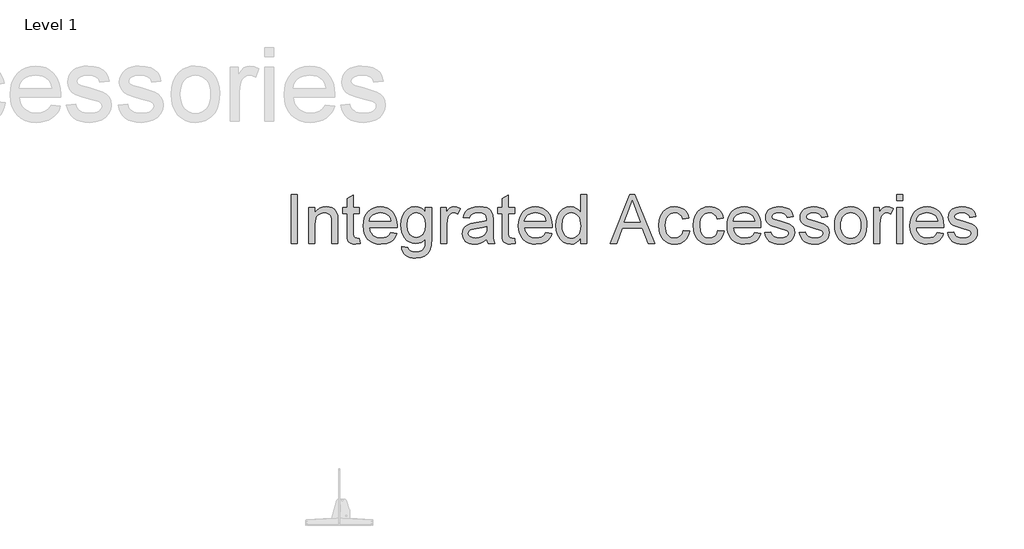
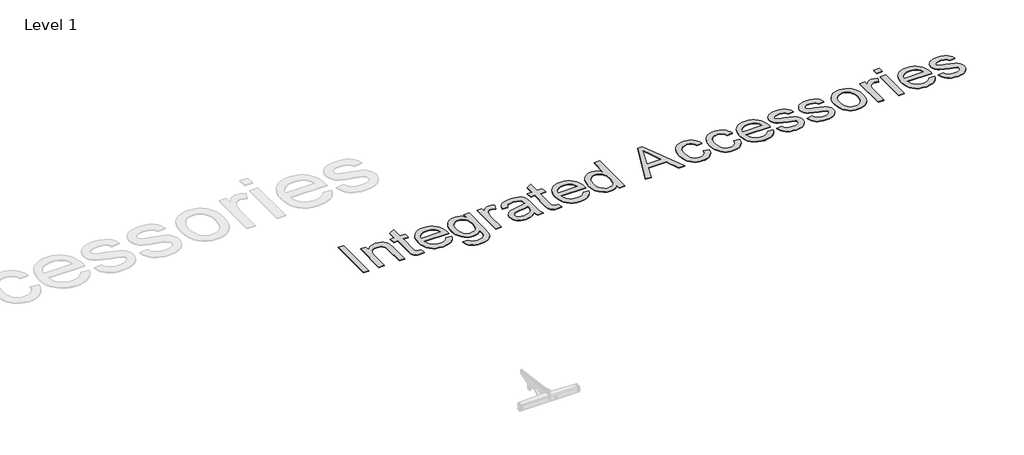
# One storey, part 9 of 31: 1 proxy.
"""IFC4 building model written with IfcOpenShell, lengths in millimetres."""

from ifc_helpers import new_model, si_unit, origin, origin_with_axes, place, context, project, spatial, polyline, outline, extrude, element, save

model = new_model("IFC4")

# Units and contexts
model_context = context("Model", 3, world=origin())
ifc_project = project(units=[si_unit("LENGTHUNIT", "METRE", prefix="MILLI")], contexts=[model_context])

# Site, building, storey
site = spatial("IfcSite", under=ifc_project)
building = spatial("IfcBuilding", under=site)
storey = spatial("IfcBuildingStorey", under=building, Name="Level 1", Elevation=0.0)

# Proxy
placement = place(None, origin())
element("IfcBuildingElementProxy", 1, Name="400mm Arial", ObjectType="400mm Arial", at=placement, inside=storey, context=model_context, shape_type="SweptSolid", body=[
    extrude(outline(polyline([(-11436.5180264, -13671.3757633), (-11436.5180264, -13269.5505227), (-11386.2898713, -13269.5505227), (-11386.2898713, -13671.3757633), (-11436.5180264, -13671.3757633)])), origin_with_axes(), (0.0, 0.0, 1.0), 5.0),
    extrude(outline(polyline([(-11292.1120806, -13671.3757633), (-11292.1120806, -13376.2853522), (-11241.8839255, -13376.2853522), (-11241.8839255, -13417.4881357), (-11224.4340562, -13396.7150657), (-11203.4770452, -13381.8771585), (-11179.0128925, -13372.9744143), (-11151.0415982, -13370.0068328), (-11126.2831399, -13372.3980658), (-11103.6093462, -13379.5717647), (-11084.7002117, -13390.63275), (-11071.2357307, -13404.6858422), (-11062.0999945, -13421.6942532), (-11056.1770943, -13441.6211946), (-11053.528344, -13490.1816179), (-11053.528344, -13671.3757633), (-11103.756499, -13671.3757633), (-11103.756499, -13496.9506466), (-11105.2035016, -13470.9781778), (-11109.5445091, -13452.5105016), (-11117.5520739, -13439.2790125), (-11129.998748, -13429.0151049), (-11145.9525639, -13422.4300171), (-11164.4815537, -13420.2349879), (-11193.8998506, -13425.1646066), (-11218.9771399, -13439.9534629), (-11228.9988586, -13452.0261237), (-11236.1572291, -13468.5256311), (-11240.4522514, -13489.4519853), (-11241.8839255, -13514.8051861), (-11241.8839255, -13671.3757633), (-11292.1120806, -13671.3757633)])), origin_with_axes(), (0.0, 0.0, 1.0), 5.0),
    extrude(outline(polyline([(-10877.7298012, -13629.4862668), (-10871.4512818, -13672.8472913), (-10909.0242963, -13677.6542827), (-10933.1328297, -13675.569618), (-10951.1099965, -13669.3156241), (-10963.8141881, -13659.6771158), (-10972.1037957, -13647.4389081), (-10976.6655324, -13626.4205835), (-10978.1861114, -13590.4417243), (-10978.1861114, -13426.5135073), (-11015.8572277, -13426.5135073), (-11015.8572277, -13376.2853522), (-10978.1861114, -13376.2853522), (-10978.1861114, -13304.5728886), (-10927.9579563, -13275.0442271), (-10927.9579563, -13376.2853522), (-10877.7298012, -13376.2853522), (-10877.7298012, -13426.5135073), (-10927.9579563, -13426.5135073), (-10927.9579563, -13588.9701964), (-10925.3092059, -13614.8690888), (-10916.7252927, -13624.0416132), (-10899.6065172, -13627.4261276), (-10877.7298012, -13629.4862668)])), origin_with_axes(), (0.0, 0.0, 1.0), 5.0),
    extrude(outline(polyline([(-10620.8991176, -13583.4764919), (-10571.6519812, -13589.7550113), (-10579.2027592, -13609.4796176), (-10589.3961561, -13626.8620419), (-10602.2321721, -13641.9022841), (-10617.710807, -13654.6003443), (-10635.6726454, -13664.6864423), (-10655.9582718, -13671.8907981), (-10703.5008883, -13677.6542827), (-10734.6666246, -13675.1680135), (-10762.4355839, -13667.7092061), (-10786.8077661, -13655.2778603), (-10807.7831712, -13637.8739763), (-10824.6505607, -13615.9819319), (-10836.698696, -13590.0861051), (-10843.9275772, -13560.1864959), (-10846.3372043, -13526.2831044), (-10843.9030517, -13491.2300816), (-10836.6005941, -13460.3341254), (-10824.4298315, -13433.5952357), (-10807.3907637, -13411.0134126), (-10786.4705409, -13393.0730339), (-10762.6563131, -13380.2584778), (-10735.9480803, -13372.5697441), (-10706.3458424, -13370.0068328), (-10677.697032, -13372.5636127), (-10651.7889425, -13380.2339523), (-10628.6215739, -13393.0178516), (-10608.1949261, -13410.9153107), (-10591.5206746, -13433.4480829), (-10579.610495, -13460.1379217), (-10572.4643873, -13490.9848269), (-10570.0823514, -13525.9887988), (-10570.376657, -13539.5268562), (-10796.1090492, -13539.5268562), (-10793.1997158, -13559.5702936), (-10787.4147714, -13577.1243961), (-10778.7542161, -13592.1891638), (-10767.2180499, -13604.7645967), (-10753.4439348, -13614.6790165), (-10738.0695331, -13621.7607449), (-10702.5198696, -13627.4261276), (-10675.7871113, -13624.8019027), (-10653.2727332, -13616.929228), (-10634.9767353, -13603.3175942), (-10620.8991176, -13583.4764919)]), holes=[polyline([(-10796.1090492, -13489.2987011), (-10620.3105064, -13489.2987011), (-10627.1040606, -13462.7621466), (-10640.4213888, -13443.7794356), (-10654.1188618, -13433.4787397), (-10669.7047957, -13426.1210998), (-10687.1791904, -13421.7065159), (-10706.5420461, -13420.2349879), (-10740.3994524, -13424.9316147), (-10768.3952722, -13439.0214951), (-10787.8562298, -13460.9840502), (-10796.1090492, -13489.2987011)])]), origin_with_axes(), (0.0, 0.0, 1.0), 5.0),
    extrude(outline(polyline([(-10532.4112351, -13696.4898408), (-10482.18308, -13702.7683602), (-10476.6403246, -13718.4646587), (-10465.8981703, -13729.2558639), (-10444.7817438, -13737.6435733), (-10417.1415432, -13740.4394765), (-10387.6619327, -13737.2756914), (-10365.7361658, -13727.7843359), (-10350.5303767, -13712.5785467), (-10341.2106994, -13692.2714606), (-10337.7771342, -13633.704647), (-10354.4912395, -13650.1857604), (-10373.1428566, -13661.9579842), (-10393.7319856, -13669.0213185), (-10416.2586265, -13671.3757633), (-10443.7976595, -13668.6350424), (-10468.0441486, -13660.4128798), (-10488.998094, -13646.7092755), (-10506.6594954, -13627.5242295), (-10520.6727337, -13604.5070793), (-10530.6821897, -13579.3071626), (-10536.6878633, -13551.9244794), (-10538.6897545, -13522.3590298), (-10535.0967736, -13481.8061712), (-10524.3178312, -13444.5151996), (-10506.7330718, -13412.9141362), (-10482.7226403, -13389.4310022), (-10453.1081396, -13374.8628752), (-10418.7111731, -13370.0068328), (-10395.2219077, -13372.7536851), (-10373.9031461, -13380.9942418), (-10354.7548882, -13394.7285029), (-10337.7771342, -13413.9564685), (-10337.7771342, -13376.2853522), (-10287.5489791, -13376.2853522), (-10287.5489791, -13631.0558966), (-10290.9825444, -13689.8802276), (-10301.2832402, -13728.6182017), (-10319.0274151, -13754.3086277), (-10344.7914175, -13773.9903145), (-10378.0111617, -13786.4983023), (-10418.1225619, -13790.6676316), (-10442.7308017, -13789.1991693), (-10464.855838, -13784.7937824), (-10484.4976709, -13777.4514709), (-10501.6563003, -13767.1722348), (-10515.5162544, -13753.9438114), (-10525.2620616, -13737.7539379), (-10530.8937218, -13718.6026144), (-10532.4112351, -13696.4898408)]), holes=[polyline([(-10488.4615994, -13518.9254645), (-10483.102785, -13564.996553), (-10476.404267, -13582.633429), (-10467.0263418, -13596.6711928), (-10455.6250656, -13607.3796245), (-10442.8564947, -13615.0285044), (-10428.720629, -13619.6178322), (-10413.2174686, -13621.1476082), (-10397.8675924, -13619.6270293), (-10383.7991717, -13615.0652926), (-10371.0122067, -13607.462398), (-10359.5066973, -13596.8183456), (-10350.0000134, -13582.9185375), (-10343.2095249, -13565.548376), (-10337.7771342, -13520.3969925), (-10343.3689405, -13476.852027), (-10350.3586984, -13459.650478), (-10360.1443595, -13445.4962182), (-10371.8981892, -13434.44443), (-10384.7924531, -13426.5502955), (-10398.8271513, -13421.8138148), (-10414.0022836, -13420.2349879), (-10428.9229641, -13421.7892893), (-10442.6848164, -13426.4521936), (-10466.7320362, -13445.1038108), (-10476.2387201, -13459.0434727), (-10483.0292086, -13475.9936356), (-10488.4615994, -13518.9254645)])]), origin_with_axes(), (0.0, 0.0, 1.0), 5.0),
    extrude(outline(polyline([(-10212.2067465, -13671.3757633), (-10212.2067465, -13376.2853522), (-10168.2571108, -13376.2853522), (-10168.2571108, -13419.9406823), (-10152.0212521, -13394.630401), (-10137.0607176, -13379.7189175), (-10122.0511322, -13372.434854), (-10105.6681207, -13370.0068328), (-10080.652145, -13373.8818565), (-10055.2437619, -13385.5069276), (-10072.0191808, -13430.5356838), (-10089.6775166, -13422.8101619), (-10107.3358524, -13420.2349879), (-10122.333175, -13422.71206), (-10135.7363424, -13430.1432763), (-10146.5643358, -13441.9645511), (-10153.8361366, -13457.6117986), (-10159.9429777, -13485.6689321), (-10161.9785914, -13516.2767141), (-10161.9785914, -13671.3757633), (-10212.2067465, -13671.3757633)])), origin_with_axes(), (0.0, 0.0, 1.0), 5.0),
    extrude(outline(polyline([(-9835.4955834, -13633.704647), (-9859.4937522, -13654.2815132), (-9884.2031596, -13667.7459943), (-9910.1878912, -13675.1772106), (-9938.0120327, -13677.6542827), (-9960.3761923, -13676.1643606), (-9979.9873684, -13671.6945943), (-9996.8455608, -13664.2449839), (-10010.9507696, -13653.8155294), (-10022.088397, -13641.0684182), (-10030.0438452, -13626.6658381), (-10034.8171141, -13610.607789), (-10036.4082037, -13592.894271), (-10034.004708, -13572.0721501), (-10026.7942209, -13553.1630155), (-10015.6719219, -13536.9762077), (-10001.5329906, -13524.3210671), (-9984.9169871, -13514.7561352), (-9966.3634718, -13507.8399537), (-9922.9043455, -13500.2861101), (-9871.5480189, -13492.339859), (-9835.789889, -13483.0201818), (-9835.4955834, -13471.8365691), (-9838.9536742, -13449.4202929), (-9849.3279464, -13434.754064), (-9872.5290376, -13423.8647569), (-9904.8536022, -13420.2349879), (-9934.7746712, -13422.6507463), (-9955.6703685, -13429.8980216), (-9969.9196644, -13443.301189), (-9979.9015292, -13464.1846236), (-10030.1296843, -13457.9061042), (-10021.410881, -13430.4375819), (-10008.4001211, -13408.8551715), (-9989.883394, -13392.3495327), (-9964.6466892, -13380.111325), (-9933.7813898, -13372.5329559), (-9898.3788791, -13370.0068328), (-9864.423371, -13372.2386503), (-9837.5066716, -13378.9341026), (-9817.2118482, -13389.0018065), (-9803.1219678, -13401.3503788), (-9793.7777651, -13416.6174816), (-9787.719975, -13435.440777), (-9785.2674283, -13479.3904127), (-9785.2674283, -13541.881301), (-9782.7167798, -13629.1429102), (-9772.7103896, -13671.3757633), (-9822.9385446, -13671.3757633), (-9830.9828976, -13653.9136312), (-9835.4955834, -13633.704647)]), holes=[polyline([(-9835.4955834, -13533.2483368), (-9869.2426251, -13541.6115209), (-9916.5277242, -13548.6503297), (-9959.7415959, -13556.7927845), (-9970.9865222, -13562.3600654), (-9979.3129181, -13570.0365363), (-9984.463266, -13579.2335862), (-9986.1800486, -13589.3626038), (-9982.439915, -13604.2986128), (-9971.2195142, -13616.5368205), (-9952.7641007, -13624.7038008), (-9927.3189294, -13627.4261276), (-9900.3409164, -13624.421758), (-9876.5021631, -13615.4086491), (-9857.1760957, -13602.1281091), (-9843.7361401, -13586.321446), (-9837.7764518, -13570.0365363), (-9835.789889, -13547.4731073), (-9835.4955834, -13533.2483368)])]), origin_with_axes(), (0.0, 0.0, 1.0), 5.0),
    extrude(outline(polyline([(-9609.4688856, -13629.4862668), (-9603.1903662, -13672.8472913), (-9640.7633806, -13677.6542827), (-9664.871914, -13675.569618), (-9682.8490809, -13669.3156241), (-9695.5532724, -13659.6771158), (-9703.8428801, -13647.4389081), (-9708.4046168, -13626.4205835), (-9709.9251957, -13590.4417243), (-9709.9251957, -13426.5135073), (-9747.596312, -13426.5135073), (-9747.596312, -13376.2853522), (-9709.9251957, -13376.2853522), (-9709.9251957, -13304.5728886), (-9659.6970406, -13275.0442271), (-9659.6970406, -13376.2853522), (-9609.4688856, -13376.2853522), (-9609.4688856, -13426.5135073), (-9659.6970406, -13426.5135073), (-9659.6970406, -13588.9701964), (-9657.0482903, -13614.8690888), (-9648.4643771, -13624.0416132), (-9631.3456015, -13627.4261276), (-9609.4688856, -13629.4862668)])), origin_with_axes(), (0.0, 0.0, 1.0), 5.0),
    extrude(outline(polyline([(-9352.638202, -13583.4764919), (-9303.3910656, -13589.7550113), (-9310.9418435, -13609.4796176), (-9321.1352405, -13626.8620419), (-9333.9712564, -13641.9022841), (-9349.4498914, -13654.6003443), (-9367.4117298, -13664.6864423), (-9387.6973561, -13671.8907981), (-9435.2399727, -13677.6542827), (-9466.405709, -13675.1680135), (-9494.1746683, -13667.7092061), (-9518.5468505, -13655.2778603), (-9539.5222556, -13637.8739763), (-9556.389645, -13615.9819319), (-9568.4377804, -13590.0861051), (-9575.6666616, -13560.1864959), (-9578.0762886, -13526.2831044), (-9575.6421361, -13491.2300816), (-9568.3396785, -13460.3341254), (-9556.1689158, -13433.5952357), (-9539.1298481, -13411.0134126), (-9518.2096253, -13393.0730339), (-9494.3953975, -13380.2584778), (-9467.6871646, -13372.5697441), (-9438.0849267, -13370.0068328), (-9409.4361164, -13372.5636127), (-9383.5280269, -13380.2339523), (-9360.3606582, -13393.0178516), (-9339.9340104, -13410.9153107), (-9323.259759, -13433.4480829), (-9311.3495794, -13460.1379217), (-9304.2034717, -13490.9848269), (-9301.8214357, -13525.9887988), (-9302.1157413, -13539.5268562), (-9527.8481336, -13539.5268562), (-9524.9388001, -13559.5702936), (-9519.1538558, -13577.1243961), (-9510.4933004, -13592.1891638), (-9498.9571342, -13604.7645967), (-9485.1830192, -13614.6790165), (-9469.8086175, -13621.7607449), (-9434.258954, -13627.4261276), (-9407.5261957, -13624.8019027), (-9385.0118176, -13616.929228), (-9366.7158197, -13603.3175942), (-9352.638202, -13583.4764919)]), holes=[polyline([(-9527.8481336, -13489.2987011), (-9352.0495908, -13489.2987011), (-9358.843145, -13462.7621466), (-9372.1604732, -13443.7794356), (-9385.8579462, -13433.4787397), (-9401.44388, -13426.1210998), (-9418.9182748, -13421.7065159), (-9438.2811305, -13420.2349879), (-9472.1385368, -13424.9316147), (-9500.1343566, -13439.0214951), (-9519.5953141, -13460.9840502), (-9527.8481336, -13489.2987011)])]), origin_with_axes(), (0.0, 0.0, 1.0), 5.0),
    extrude(outline(polyline([(-9069.5162185, -13671.3757633), (-9069.5162185, -13623.9925623), (-9084.544198, -13647.469565), (-9102.7482254, -13664.2388526), (-9124.1283007, -13674.3004251), (-9148.6844239, -13677.6542827), (-9181.1561413, -13672.7982403), (-9210.8810065, -13658.2301133), (-9236.044135, -13634.9677085), (-9254.8306422, -13604.0288327), (-9266.5292897, -13566.6642847), (-9270.4288388, -13524.1248633), (-9266.835858, -13482.1127395), (-9256.0569155, -13444.1718431), (-9238.1042742, -13412.4604151), (-9212.9901966, -13389.1366966), (-9182.6154066, -13374.7892988), (-9148.8806276, -13370.0068328), (-9124.3061103, -13373.4281354), (-9102.5765471, -13383.6920431), (-9084.1579219, -13399.4251297), (-9069.5162185, -13419.2539693), (-9069.5162185, -13269.5505227), (-9019.2880634, -13269.5505227), (-9019.2880634, -13671.3757633), (-9069.5162185, -13671.3757633)]), holes=[polyline([(-9220.2006837, -13523.9286596), (-9218.7843381, -13548.2855134), (-9214.535301, -13569.362086), (-9207.4535726, -13587.1583775), (-9197.5391528, -13601.6743879), (-9172.8420082, -13620.9881927), (-9158.9667256, -13625.8166439), (-9144.0736362, -13627.4261276), (-9129.110036, -13625.8902203), (-9115.3175269, -13621.2824983), (-9091.2457817, -13602.8516103), (-9081.7390978, -13588.9426052), (-9074.9486093, -13571.7901072), (-9069.5162185, -13527.7546324), (-9075.0467112, -13479.6111419), (-9081.959827, -13461.0760207), (-9091.6381892, -13446.2319822), (-9103.3399023, -13434.8582972), (-9116.323071, -13426.7342365), (-9130.5876954, -13421.8598001), (-9146.1337754, -13420.2349879), (-9161.3211704, -13421.7954207), (-9175.196453, -13426.4767191), (-9187.7596231, -13434.2788831), (-9199.0106808, -13445.2019126), (-9208.2813071, -13459.4849311), (-9214.903183, -13477.3670618), (-9220.2006837, -13523.9286596)])]), origin_with_axes(), (0.0, 0.0, 1.0), 5.0),
    extrude(outline(polyline([(-8827.4008148, -13671.3757633), (-8667.0042649, -13269.5505227), (-8624.2318516, -13269.5505227), (-8463.9334035, -13671.3757633), (-8517.0065127, -13671.3757633), (-8562.9181857, -13545.8053756), (-8728.5141344, -13545.8053756), (-8774.4258074, -13671.3757633), (-8827.4008148, -13671.3757633)]), holes=[polyline([(-8710.0709838, -13495.5772205), (-8581.2632345, -13495.5772205), (-8617.5609247, -13396.7886421), (-8645.7161601, -13319.7786778), (-8670.7321357, -13388.1556779), (-8710.0709838, -13495.5772205)])]), origin_with_axes(), (0.0, 0.0, 1.0), 5.0),
    extrude(outline(polyline([(-8228.194621, -13564.6409337), (-8177.9664659, -13570.9194531), (-8183.4295136, -13594.6202507), (-8191.9705072, -13615.5925901), (-8203.5894469, -13633.8364714), (-8218.2863326, -13649.3518945), (-8235.4418963, -13661.7341893), (-8254.43687, -13670.5786856), (-8275.2712537, -13675.8853834), (-8297.9450473, -13677.6542827), (-8326.1156111, -13675.1864076), (-8351.3737757, -13667.7827825), (-8373.7195413, -13655.4434072), (-8393.1529076, -13638.1682819), (-8408.8829286, -13616.2823688), (-8420.1186579, -13590.1106305), (-8426.8600955, -13559.653067), (-8429.1072413, -13524.9096783), (-8425.2690058, -13480.2120159), (-8413.7542994, -13441.4740418), (-8394.379181, -13410.1918094), (-8366.9597096, -13387.8613723), (-8334.1568984, -13374.4704677), (-8298.6317604, -13370.0068328), (-8276.3473085, -13371.5396745), (-8256.1904408, -13376.1381994), (-8238.1611574, -13383.8024077), (-8222.2594582, -13394.5322992), (-8208.7551232, -13408.0826193), (-8197.9179328, -13424.2081135), (-8189.7478868, -13442.9087815), (-8184.2449853, -13464.1846236), (-8234.4731404, -13470.463143), (-8243.5843511, -13448.5496388), (-8257.7723334, -13432.8410776), (-8276.2522723, -13423.3865103), (-8298.2393529, -13420.2349879), (-8315.3060118, -13421.7862237), (-8330.6988076, -13426.4399309), (-8344.4177403, -13434.1961096), (-8356.46281, -13445.0547599), (-8366.2699308, -13459.2672676), (-8373.2750172, -13477.0850189), (-8377.478069, -13498.5080137), (-8378.8790862, -13523.5362522), (-8373.3976445, -13570.6128848), (-8366.5458423, -13588.5501978), (-8356.9533193, -13602.7535084), (-8345.147373, -13613.5477793), (-8331.6553008, -13621.2579728), (-8316.4771028, -13625.8840889), (-8299.612779, -13627.4261276), (-8273.6035219, -13623.5756294), (-8252.278629, -13612.0241347), (-8236.7662715, -13592.4773381), (-8228.194621, -13564.6409337)])), origin_with_axes(), (0.0, 0.0, 1.0), 5.0),
    extrude(outline(polyline([(-7945.6612487, -13564.6409337), (-7895.4330936, -13570.9194531), (-7900.8961413, -13594.6202507), (-7909.4371349, -13615.5925901), (-7921.0560746, -13633.8364714), (-7935.7529603, -13649.3518945), (-7952.908524, -13661.7341893), (-7971.9034977, -13670.5786856), (-7992.7378814, -13675.8853834), (-8015.411675, -13677.6542827), (-8043.5822388, -13675.1864076), (-8068.8404034, -13667.7827825), (-8091.186169, -13655.4434072), (-8110.6195354, -13638.1682819), (-8126.3495563, -13616.2823688), (-8137.5852856, -13590.1106305), (-8144.3267232, -13559.653067), (-8146.573869, -13524.9096783), (-8142.7356335, -13480.2120159), (-8131.2209271, -13441.4740418), (-8111.8458087, -13410.1918094), (-8084.4263373, -13387.8613723), (-8051.6235261, -13374.4704677), (-8016.0983881, -13370.0068328), (-7993.8139362, -13371.5396745), (-7973.6570685, -13376.1381994), (-7955.6277851, -13383.8024077), (-7939.7260859, -13394.5322992), (-7926.221751, -13408.0826193), (-7915.3845605, -13424.2081135), (-7907.2145145, -13442.9087815), (-7901.711613, -13464.1846236), (-7951.9397681, -13470.463143), (-7961.0509788, -13448.5496388), (-7975.2389611, -13432.8410776), (-7993.7189, -13423.3865103), (-8015.7059806, -13420.2349879), (-8032.7726395, -13421.7862237), (-8048.1654353, -13426.4399309), (-8061.884368, -13434.1961096), (-8073.9294377, -13445.0547599), (-8083.7365586, -13459.2672676), (-8090.7416449, -13477.0850189), (-8094.9446967, -13498.5080137), (-8096.3457139, -13523.5362522), (-8090.8642722, -13570.6128848), (-8084.01247, -13588.5501978), (-8074.419947, -13602.7535084), (-8062.6140007, -13613.5477793), (-8049.1219285, -13621.2579728), (-8033.9437305, -13625.8840889), (-8017.0794067, -13627.4261276), (-7991.0701497, -13623.5756294), (-7969.7452567, -13612.0241347), (-7954.2328992, -13592.4773381), (-7945.6612487, -13564.6409337)])), origin_with_axes(), (0.0, 0.0, 1.0), 5.0),
    extrude(outline(polyline([(-7644.8809295, -13583.4764919), (-7595.633793, -13589.7550113), (-7603.184571, -13609.4796176), (-7613.3779679, -13626.8620419), (-7626.2139839, -13641.9022841), (-7641.6926188, -13654.6003443), (-7659.6544572, -13664.6864423), (-7679.9400836, -13671.8907981), (-7727.4827001, -13677.6542827), (-7758.6484365, -13675.1680135), (-7786.4173957, -13667.7092061), (-7810.7895779, -13655.2778603), (-7831.764983, -13637.8739763), (-7848.6323725, -13615.9819319), (-7860.6805078, -13590.0861051), (-7867.909389, -13560.1864959), (-7870.3190161, -13526.2831044), (-7867.8848636, -13491.2300816), (-7860.582406, -13460.3341254), (-7848.4116433, -13433.5952357), (-7831.3725755, -13411.0134126), (-7810.4523528, -13393.0730339), (-7786.6381249, -13380.2584778), (-7759.9298921, -13372.5697441), (-7730.3276542, -13370.0068328), (-7701.6788438, -13372.5636127), (-7675.7707543, -13380.2339523), (-7652.6033857, -13393.0178516), (-7632.1767379, -13410.9153107), (-7615.5024865, -13433.4480829), (-7603.5923069, -13460.1379217), (-7596.4461991, -13490.9848269), (-7594.0641632, -13525.9887988), (-7594.3584688, -13539.5268562), (-7820.090861, -13539.5268562), (-7817.1815276, -13559.5702936), (-7811.3965832, -13577.1243961), (-7802.7360279, -13592.1891638), (-7791.1998617, -13604.7645967), (-7777.4257466, -13614.6790165), (-7762.0513449, -13621.7607449), (-7726.5016815, -13627.4261276), (-7699.7689231, -13624.8019027), (-7677.254545, -13616.929228), (-7658.9585471, -13603.3175942), (-7644.8809295, -13583.4764919)]), holes=[polyline([(-7820.090861, -13489.2987011), (-7644.2923183, -13489.2987011), (-7651.0858724, -13462.7621466), (-7664.4032007, -13443.7794356), (-7678.1006736, -13433.4787397), (-7693.6866075, -13426.1210998), (-7711.1610023, -13421.7065159), (-7730.5238579, -13420.2349879), (-7764.3812642, -13424.9316147), (-7792.3770841, -13439.0214951), (-7811.8380416, -13460.9840502), (-7820.090861, -13489.2987011)])]), origin_with_axes(), (0.0, 0.0, 1.0), 5.0),
    extrude(outline(polyline([(-7562.6715663, -13583.4764919), (-7512.4434112, -13577.1979725), (-7504.5216856, -13598.682281), (-7489.1932691, -13614.4766814), (-7466.3600599, -13624.188766), (-7435.9239562, -13627.4261276), (-7405.8557345, -13624.4585462), (-7384.7147825, -13615.5558019), (-7372.2067946, -13602.6554066), (-7368.0374654, -13587.6948721), (-7372.2313201, -13574.8925787), (-7384.8128843, -13565.1314431), (-7436.5125674, -13550.8085707), (-7512.1491056, -13526.2340535), (-7531.2912321, -13513.8854811), (-7545.1603833, -13497.5392578), (-7553.584881, -13478.2377158), (-7556.3930469, -13457.0231874), (-7554.136704, -13437.5622299), (-7547.3676753, -13419.5973258), (-7536.6990974, -13403.8397137), (-7522.7441071, -13391.000632), (-7490.8119499, -13376.1381994), (-7469.9285153, -13371.5396745), (-7447.5980782, -13370.0068328), (-7414.9056315, -13372.4716422), (-7386.480616, -13379.8660703), (-7363.6228814, -13391.4666159), (-7347.6322774, -13406.5497777), (-7337.0372759, -13426.2314644), (-7330.366349, -13451.6275848), (-7380.5945041, -13457.9061042), (-7386.9343372, -13442.0994412), (-7399.4791132, -13430.1923272), (-7418.3514596, -13422.7243227), (-7443.6740036, -13420.2349879), (-7472.515952, -13422.6139581), (-7491.7439176, -13429.7508689), (-7502.5596483, -13440.0515647), (-7506.1648918, -13451.9218904), (-7500.180678, -13466.5390684), (-7481.4432217, -13477.6245792), (-7438.1802991, -13488.3176825), (-7364.4567473, -13511.960232), (-7344.983527, -13523.266472), (-7330.2191962, -13538.7420413), (-7320.9117818, -13558.4359908), (-7317.8093103, -13582.3973714), (-7321.451342, -13607.1680924), (-7332.3774373, -13630.4672854), (-7350.1706631, -13650.4678032), (-7374.4140866, -13665.3424986), (-7403.6974934, -13674.5763366), (-7436.6106693, -13677.6542827), (-7463.6438645, -13676.170492), (-7487.2557573, -13671.7191198), (-7507.4463474, -13664.3001662), (-7524.215635, -13653.9136312), (-7537.913108, -13640.6085658), (-7548.8882542, -13624.4340207), (-7557.1410736, -13605.3899961), (-7562.6715663, -13583.4764919)])), origin_with_axes(), (0.0, 0.0, 1.0), 5.0),
    extrude(outline(polyline([(-7280.138194, -13583.4764919), (-7229.9100389, -13577.1979725), (-7221.9883133, -13598.682281), (-7206.6598968, -13614.4766814), (-7183.8266876, -13624.188766), (-7153.3905839, -13627.4261276), (-7123.3223622, -13624.4585462), (-7102.1814102, -13615.5558019), (-7089.6734223, -13602.6554066), (-7085.5040931, -13587.6948721), (-7089.6979478, -13574.8925787), (-7102.279512, -13565.1314431), (-7153.9791951, -13550.8085707), (-7229.6157333, -13526.2340535), (-7248.7578598, -13513.8854811), (-7262.627011, -13497.5392578), (-7271.0515087, -13478.2377158), (-7273.8596746, -13457.0231874), (-7271.6033317, -13437.5622299), (-7264.834303, -13419.5973258), (-7254.1657251, -13403.8397137), (-7240.2107348, -13391.000632), (-7208.2785776, -13376.1381994), (-7187.395143, -13371.5396745), (-7165.0647059, -13370.0068328), (-7132.3722592, -13372.4716422), (-7103.9472437, -13379.8660703), (-7081.0895091, -13391.4666159), (-7065.0989051, -13406.5497777), (-7054.5039036, -13426.2314644), (-7047.8329768, -13451.6275848), (-7098.0611318, -13457.9061042), (-7104.4009649, -13442.0994412), (-7116.9457409, -13430.1923272), (-7135.8180873, -13422.7243227), (-7161.1406313, -13420.2349879), (-7189.9825797, -13422.6139581), (-7209.2105453, -13429.7508689), (-7220.026276, -13440.0515647), (-7223.6315195, -13451.9218904), (-7217.6473057, -13466.5390684), (-7198.9098494, -13477.6245792), (-7155.6469268, -13488.3176825), (-7081.923375, -13511.960232), (-7062.4501547, -13523.266472), (-7047.685824, -13538.7420413), (-7038.3784095, -13558.4359908), (-7035.275938, -13582.3973714), (-7038.9179697, -13607.1680924), (-7049.844065, -13630.4672854), (-7067.6372908, -13650.4678032), (-7091.8807143, -13665.3424986), (-7121.1641211, -13674.5763366), (-7154.077297, -13677.6542827), (-7181.1104922, -13676.170492), (-7204.722385, -13671.7191198), (-7224.9129751, -13664.3001662), (-7241.6822627, -13653.9136312), (-7255.3797357, -13640.6085658), (-7266.3548819, -13624.4340207), (-7274.6077013, -13605.3899961), (-7280.138194, -13583.4764919)])), origin_with_axes(), (0.0, 0.0, 1.0), 5.0),
    extrude(outline(polyline([(-6991.3263023, -13523.8305578), (-6988.6101069, -13485.6137498), (-6980.4615207, -13452.6821799), (-6966.8805437, -13425.0358479), (-6947.8671759, -13402.674754), (-6928.7250494, -13388.3825385), (-6907.5963602, -13378.1738131), (-6884.4811082, -13372.0485779), (-6859.3792934, -13370.0068328), (-6831.6685821, -13372.493102), (-6806.6127525, -13379.9519094), (-6784.2118047, -13392.3832552), (-6764.4657386, -13409.7871392), (-6748.3494415, -13431.5749504), (-6736.8378008, -13457.1580775), (-6729.9308163, -13486.5365205), (-6727.6284881, -13519.7102794), (-6731.6997156, -13570.4534693), (-6743.9133978, -13609.0810788), (-6763.9139156, -13638.0088663), (-6791.3456497, -13659.6525904), (-6823.9277318, -13673.1538596), (-6859.3792934, -13677.6542827), (-6887.4946748, -13675.1772106), (-6912.7834963, -13667.7459943), (-6935.2457578, -13655.3606338), (-6954.8814593, -13638.0211291), (-6970.8260781, -13616.0217857), (-6982.2150915, -13589.6569094), (-6989.0484996, -13558.9265001), (-6991.3263023, -13523.8305578)]), holes=[polyline([(-6941.0981472, -13523.7324559), (-6939.6450133, -13548.095441), (-6935.2856117, -13569.1904078), (-6928.0199423, -13587.0173561), (-6917.8480051, -13601.5762861), (-6905.4749074, -13612.8855917), (-6891.6057561, -13620.9636672), (-6876.2405515, -13625.8105125), (-6859.3792934, -13627.4261276), (-6842.6038744, -13625.8013154), (-6827.2999834, -13620.926879), (-6813.4676204, -13612.8028183), (-6801.1067853, -13601.4291333), (-6790.9348482, -13586.7261162), (-6783.6691787, -13568.6140593), (-6779.3097771, -13547.0929626), (-6777.8566432, -13522.162826), (-6779.3189742, -13498.5723931), (-6783.7059669, -13478.0292494), (-6791.0176216, -13460.5333948), (-6801.2539381, -13446.0848294), (-6813.6607584, -13434.7755238), (-6827.4839244, -13426.6974483), (-6842.723436, -13421.850603), (-6859.3792934, -13420.2349879), (-6876.2405515, -13421.8444716), (-6891.6057561, -13426.6729228), (-6905.4749074, -13434.7203415), (-6917.8480051, -13445.9867276), (-6928.0199423, -13460.502738), (-6935.2856117, -13478.2990295), (-6939.6450133, -13499.3756021), (-6941.0981472, -13523.7324559)])]), origin_with_axes(), (0.0, 0.0, 1.0), 5.0),
    extrude(outline(polyline([(-6671.1218137, -13671.3757633), (-6671.1218137, -13376.2853522), (-6627.172178, -13376.2853522), (-6627.172178, -13419.9406823), (-6610.9363193, -13394.630401), (-6595.9757848, -13379.7189175), (-6580.9661994, -13372.434854), (-6564.5831879, -13370.0068328), (-6539.5672122, -13373.8818565), (-6514.1588291, -13385.5069276), (-6530.9342481, -13430.5356838), (-6548.5925838, -13422.8101619), (-6566.2509196, -13420.2349879), (-6581.2482423, -13422.71206), (-6594.6514096, -13430.1432763), (-6605.479403, -13441.9645511), (-6612.7512038, -13457.6117986), (-6618.8580449, -13485.6689321), (-6620.8936586, -13516.2767141), (-6620.8936586, -13671.3757633), (-6671.1218137, -13671.3757633)])), origin_with_axes(), (0.0, 0.0, 1.0), 5.0),
    extrude(outline(polyline([(-6482.7662322, -13319.7786778), (-6482.7662322, -13269.5505227), (-6432.5380771, -13269.5505227), (-6432.5380771, -13319.7786778), (-6482.7662322, -13319.7786778)])), origin_with_axes(), (0.0, 0.0, 1.0), 5.0),
    extrude(outline(polyline([(-6482.7662322, -13671.3757633), (-6482.7662322, -13376.2853522), (-6432.5380771, -13376.2853522), (-6432.5380771, -13671.3757633), (-6482.7662322, -13671.3757633)])), origin_with_axes(), (0.0, 0.0, 1.0), 5.0),
    extrude(outline(polyline([(-6150.593316, -13583.4764919), (-6101.3461796, -13589.7550113), (-6108.8969575, -13609.4796176), (-6119.0903545, -13626.8620419), (-6131.9263704, -13641.9022841), (-6147.4050054, -13654.6003443), (-6165.3668438, -13664.6864423), (-6185.6524701, -13671.8907981), (-6233.1950866, -13677.6542827), (-6264.360823, -13675.1680135), (-6292.1297823, -13667.7092061), (-6316.5019644, -13655.2778603), (-6337.4773695, -13637.8739763), (-6354.344759, -13615.9819319), (-6366.3928944, -13590.0861051), (-6373.6217756, -13560.1864959), (-6376.0314026, -13526.2831044), (-6373.5972501, -13491.2300816), (-6366.2947925, -13460.3341254), (-6354.1240298, -13433.5952357), (-6337.0849621, -13411.0134126), (-6316.1647393, -13393.0730339), (-6292.3505115, -13380.2584778), (-6265.6422786, -13372.5697441), (-6236.0400407, -13370.0068328), (-6207.3912304, -13372.5636127), (-6181.4831408, -13380.2339523), (-6158.3157722, -13393.0178516), (-6137.8891244, -13410.9153107), (-6121.214873, -13433.4480829), (-6109.3046934, -13460.1379217), (-6102.1585856, -13490.9848269), (-6099.7765497, -13525.9887988), (-6100.0708553, -13539.5268562), (-6325.8032476, -13539.5268562), (-6322.8939141, -13559.5702936), (-6317.1089697, -13577.1243961), (-6308.4484144, -13592.1891638), (-6296.9122482, -13604.7645967), (-6283.1381332, -13614.6790165), (-6267.7637314, -13621.7607449), (-6232.214068, -13627.4261276), (-6205.4813097, -13624.8019027), (-6182.9669316, -13616.929228), (-6164.6709337, -13603.3175942), (-6150.593316, -13583.4764919)]), holes=[polyline([(-6325.8032476, -13489.2987011), (-6150.0047048, -13489.2987011), (-6156.798259, -13462.7621466), (-6170.1155872, -13443.7794356), (-6183.8130601, -13433.4787397), (-6199.398994, -13426.1210998), (-6216.8733888, -13421.7065159), (-6236.2362445, -13420.2349879), (-6270.0936507, -13424.9316147), (-6298.0894706, -13439.0214951), (-6317.5504281, -13460.9840502), (-6325.8032476, -13489.2987011)])]), origin_with_axes(), (0.0, 0.0, 1.0), 5.0),
    extrude(outline(polyline([(-6068.3839528, -13583.4764919), (-6018.1557977, -13577.1979725), (-6010.2340721, -13598.682281), (-5994.9056556, -13614.4766814), (-5972.0724465, -13624.188766), (-5941.6363427, -13627.4261276), (-5911.568121, -13624.4585462), (-5890.427169, -13615.5558019), (-5877.9191812, -13602.6554066), (-5873.7498519, -13587.6948721), (-5877.9437066, -13574.8925787), (-5890.5252709, -13565.1314431), (-5942.2249539, -13550.8085707), (-6017.8614921, -13526.2340535), (-6037.0036186, -13513.8854811), (-6050.8727698, -13497.5392578), (-6059.2972675, -13478.2377158), (-6062.1054334, -13457.0231874), (-6059.8490905, -13437.5622299), (-6053.0800618, -13419.5973258), (-6042.4114839, -13403.8397137), (-6028.4564936, -13391.000632), (-5996.5243364, -13376.1381994), (-5975.6409018, -13371.5396745), (-5953.3104647, -13370.0068328), (-5920.6180181, -13372.4716422), (-5892.1930026, -13379.8660703), (-5869.3352679, -13391.4666159), (-5853.3446639, -13406.5497777), (-5842.7496624, -13426.2314644), (-5836.0787356, -13451.6275848), (-5886.3068906, -13457.9061042), (-5892.6467237, -13442.0994412), (-5905.1914997, -13430.1923272), (-5924.0638461, -13422.7243227), (-5949.3863901, -13420.2349879), (-5978.2283385, -13422.6139581), (-5997.4563041, -13429.7508689), (-6008.2720348, -13440.0515647), (-6011.8772783, -13451.9218904), (-6005.8930645, -13466.5390684), (-5987.1556083, -13477.6245792), (-5943.8926856, -13488.3176825), (-5870.1691338, -13511.960232), (-5850.6959135, -13523.266472), (-5835.9315828, -13538.7420413), (-5826.6241683, -13558.4359908), (-5823.5216968, -13582.3973714), (-5827.1637286, -13607.1680924), (-5838.0898238, -13630.4672854), (-5855.8830496, -13650.4678032), (-5880.1264731, -13665.3424986), (-5909.4098799, -13674.5763366), (-5942.3230558, -13677.6542827), (-5969.3562511, -13676.170492), (-5992.9681438, -13671.7191198), (-6013.1587339, -13664.3001662), (-6029.9280216, -13653.9136312), (-6043.6254945, -13640.6085658), (-6054.6006407, -13624.4340207), (-6062.8534601, -13605.3899961), (-6068.3839528, -13583.4764919)])), origin_with_axes(), (0.0, 0.0, 1.0), 5.0),
])

save(model, "model.ifc")
